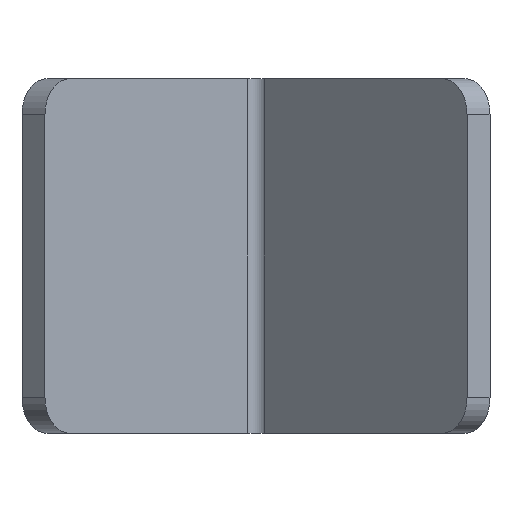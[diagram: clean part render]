
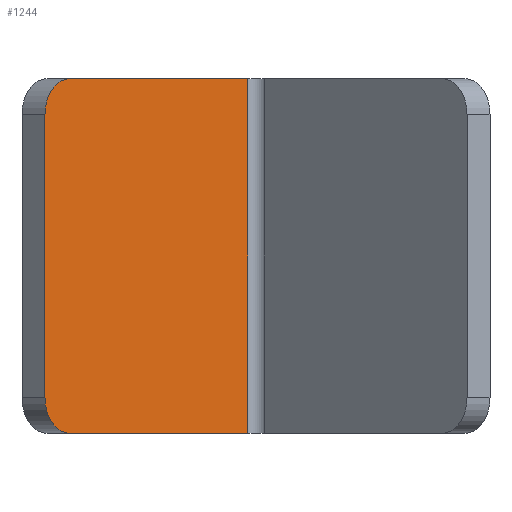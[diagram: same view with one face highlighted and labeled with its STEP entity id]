
A CAD part, front view. The second image highlights one B-rep face of the part: STEP entity #1244.
In plain terms, the highlighted planar face has unit normal (0.707, -0.707, 0) as drawn and (0, 1, 0) by its records, which use the part's own axes.
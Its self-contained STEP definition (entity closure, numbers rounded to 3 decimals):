
#524 = CARTESIAN_POINT ( 'NONE',  ( 25., 2.75, 15. ) ) ;
#836 = VERTEX_POINT ( 'NONE', #524 ) ;
#853 = VERTEX_POINT ( 'NONE', #998 ) ;
#885 = VERTEX_POINT ( 'NONE', #1022 ) ;
#911 = VERTEX_POINT ( 'NONE', #1052 ) ;
#912 = VERTEX_POINT ( 'NONE', #1054 ) ;
#941 = VERTEX_POINT ( 'NONE', #1081 ) ;
#998 = CARTESIAN_POINT ( 'NONE',  ( 28., 2.75, 12. ) ) ;
#1022 = CARTESIAN_POINT ( 'NONE',  ( 3.75, 2.75, -15. ) ) ;
#1052 = CARTESIAN_POINT ( 'NONE',  ( 28., 2.75, -12. ) ) ;
#1054 = CARTESIAN_POINT ( 'NONE',  ( 25., 2.75, -15. ) ) ;
#1081 = CARTESIAN_POINT ( 'NONE',  ( 3.75, 2.75, 15. ) ) ;
#1196 = EDGE_CURVE ( 'NONE', #836, #853, #2267, .T. ) ;
#1197 = EDGE_CURVE ( 'NONE', #941, #885, #2059, .T. ) ;
#1216 = EDGE_CURVE ( 'NONE', #853, #911, #2123, .T. ) ;
#1217 = EDGE_CURVE ( 'NONE', #941, #836, #2013, .T. ) ;
#1222 = EDGE_CURVE ( 'NONE', #911, #912, #2523, .T. ) ;
#1227 = EDGE_CURVE ( 'NONE', #885, #912, #1976, .T. ) ;
#1244 = ADVANCED_FACE ( 'NONE', ( #1875 ), #1908, .T. ) ;
#1310 = EDGE_LOOP ( 'NONE', ( #1495, #1562, #1522, #1506, #1436, #1586 ) ) ;
#1436 = ORIENTED_EDGE ( 'NONE', *, *, #1227, .F. ) ;
#1495 = ORIENTED_EDGE ( 'NONE', *, *, #1217, .T. ) ;
#1506 = ORIENTED_EDGE ( 'NONE', *, *, #1222, .T. ) ;
#1522 = ORIENTED_EDGE ( 'NONE', *, *, #1216, .T. ) ;
#1562 = ORIENTED_EDGE ( 'NONE', *, *, #1196, .T. ) ;
#1586 = ORIENTED_EDGE ( 'NONE', *, *, #1197, .F. ) ;
#1653 = CARTESIAN_POINT ( 'NONE',  ( 25., 2.75, 12. ) ) ;
#1664 = CARTESIAN_POINT ( 'NONE',  ( 25., 2.75, -12. ) ) ;
#1676 = DIRECTION ( 'NONE',  ( 0., 1., 0. ) ) ;
#1780 = CARTESIAN_POINT ( 'NONE',  ( 0., 2.75, 15. ) ) ;
#1825 = DIRECTION ( 'NONE',  ( 0., 0., 1. ) ) ;
#1875 = FACE_OUTER_BOUND ( 'NONE', #1310, .T. ) ;
#1908 = PLANE ( 'NONE',  #2530 ) ;
#1924 = DIRECTION ( 'NONE',  ( 0., 0., 1. ) ) ;
#1961 = DIRECTION ( 'NONE',  ( 1., 0., 0. ) ) ;
#1971 = DIRECTION ( 'NONE',  ( 0., 1., 0. ) ) ;
#1976 = LINE ( 'NONE', #2036, #2555 ) ;
#2002 = CARTESIAN_POINT ( 'NONE',  ( 0., 2.75, 15. ) ) ;
#2013 = LINE ( 'NONE', #2002, #2439 ) ;
#2027 = CARTESIAN_POINT ( 'NONE',  ( 28., 2.75, 15. ) ) ;
#2036 = CARTESIAN_POINT ( 'NONE',  ( 0., 2.75, -15. ) ) ;
#2053 = CARTESIAN_POINT ( 'NONE',  ( 3.75, 2.75, 15. ) ) ;
#2059 = LINE ( 'NONE', #2053, #2537 ) ;
#2062 = DIRECTION ( 'NONE',  ( 0., 1., 0. ) ) ;
#2063 = DIRECTION ( 'NONE',  ( 0., 0., -1. ) ) ;
#2071 = DIRECTION ( 'NONE',  ( 0., 0., 1. ) ) ;
#2096 = DIRECTION ( 'NONE',  ( 0., 0., -1. ) ) ;
#2123 = LINE ( 'NONE', #2027, #2502 ) ;
#2127 = DIRECTION ( 'NONE',  ( 1., 0., 0. ) ) ;
#2267 = CIRCLE ( 'NONE', #2442, 3. ) ;
#2327 = AXIS2_PLACEMENT_3D ( 'NONE', #1664, #1971, #1924 ) ;
#2439 = VECTOR ( 'NONE', #1961, 1000. ) ;
#2442 = AXIS2_PLACEMENT_3D ( 'NONE', #1653, #2062, #2071 ) ;
#2502 = VECTOR ( 'NONE', #2096, 1000. ) ;
#2523 = CIRCLE ( 'NONE', #2327, 3. ) ;
#2530 = AXIS2_PLACEMENT_3D ( 'NONE', #1780, #1676, #1825 ) ;
#2537 = VECTOR ( 'NONE', #2063, 1000. ) ;
#2555 = VECTOR ( 'NONE', #2127, 1000. ) ;
